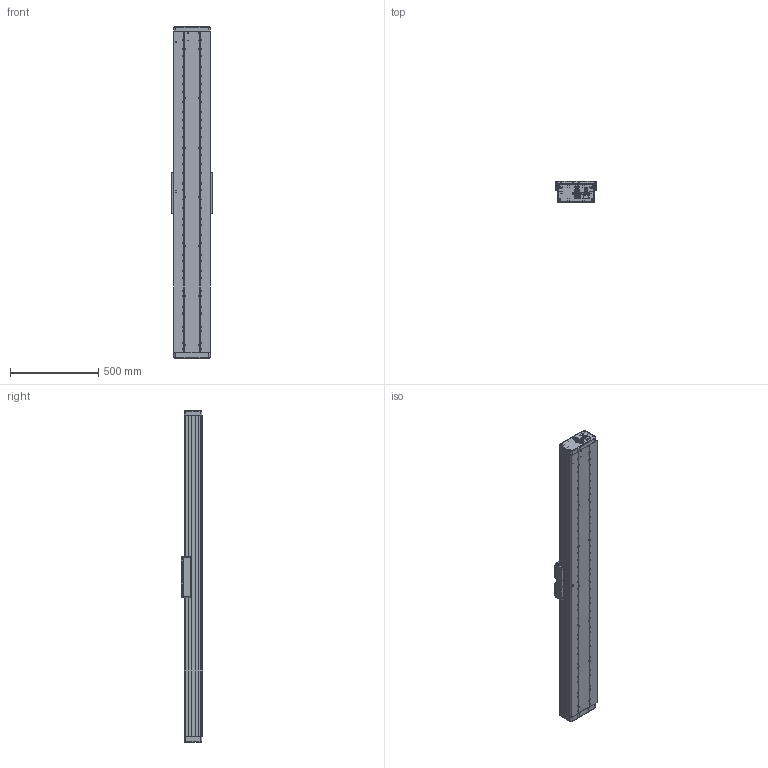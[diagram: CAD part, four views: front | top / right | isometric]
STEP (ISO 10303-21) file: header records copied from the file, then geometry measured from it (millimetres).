
FILE_DESCRIPTION (( 'STEP AP214' ), '1' );
FILE_NAME ('Assy_Linear_Axis_1.5m_travel_PF400_ShellEXT_091914.STEP', '2014-09-19T21:47:23', ( '' ), ( '' ), 'SwSTEP 2.0', 'SolidWorks 2014', '' );
FILE_SCHEMA (( 'AUTOMOTIVE_DESIGN' ));
Length unit declared in the file: millimetre
Products named in the file (20): Tape Seal^Assy, Linear Axis, 1.5m travel, PF400, ShellEXT; Cover, Linear Axis, Hollow, 1821mm, PF400, ShellEXT; Misumi-UST6-60_UST-60-Shoulder-Normal Type-SCM435-Bright Chromate-6-Urethane(Black)-; Belt Mount, Linear Axis, PF400, ShellEXT; Assy, Base, Linear Axis, PF400, ShellEXT; Assy, Carriage, Linear Axis, Tall, PF400, ShellEXT; keystone_612; IKO_MESC15_slider; Carriage, Tall, Linear Axis, PF400, ShellEXT; IKO_MES15_Rail_1200; Assy, End Cap, Tall, Linear Axis, PF400, ShellEXT; M4-40_91292A132; Assy, Connector End Cap, Tall, Linear Axis, PF400, ShellEXT; M4-25_91292A122; Extrusion, Linear Axis, 1821mm, PF400, ShellEXT; Dsub_mtng_standoff; M6-16_91292A135; M3_6_FHCS_91294A130; Assy_Linear_Axis_1.5m_travel_PF400_ShellEXT_091914; Base, Cutout Cover, Linear Axis, PF400
Assembly tree (43 placements, depth 3):
  Assy_Linear_Axis_1.5m_travel_PF400_ShellEXT_091914
    Extrusion, Linear Axis, 1821mm, PF400, ShellEXT
    Assy, Connector End Cap, Tall, Linear Axis, PF400, ShellEXT
    Assy, End Cap, Tall, Linear Axis, PF400, ShellEXT
    IKO_MES15_Rail_1200  x2
    Assy, Carriage, Linear Axis, Tall, PF400, ShellEXT
      Carriage, Tall, Linear Axis, PF400, ShellEXT
      IKO_MESC15_slider  x4
      keystone_612  x4
    Assy, Base, Linear Axis, PF400, ShellEXT
    Belt Mount, Linear Axis, PF400, ShellEXT
    Misumi-UST6-60_UST-60-Shoulder-Normal Type-SCM435-Bright Chromate-6-Urethane(Black)-
    Cover, Linear Axis, Hollow, 1821mm, PF400, ShellEXT
    Tape Seal^Assy, Linear Axis, 1.5m travel, PF400, ShellEXT  x2
    Base, Cutout Cover, Linear Axis, PF400
    M3_6_FHCS_91294A130  x4
    M6-16_91292A135  x4
    Dsub_mtng_standoff  x4
    M4-25_91292A122  x8
    M4-40_91292A132
Bounding box: 234 x 119.2 x 1884 mm (x, y, z)
Volume: 633761.2 mm3; surface area: 4142564.7 mm2
Topology: 53 solids, 152 shells, 4957 faces, 15164 edges, 10362 vertices
Faces by surface type: plane 2280, cylinder 1927, cone 421, bspline 275, torus 54
Entity records: 169258 total; most frequent: CARTESIAN_POINT 34729, DIRECTION 20747, ORIENTED_EDGE 19290, EDGE_CURVE 11375, VERTEX_POINT 7988, LINE 7071, VECTOR 7071, AXIS2_PLACEMENT_3D 6838
